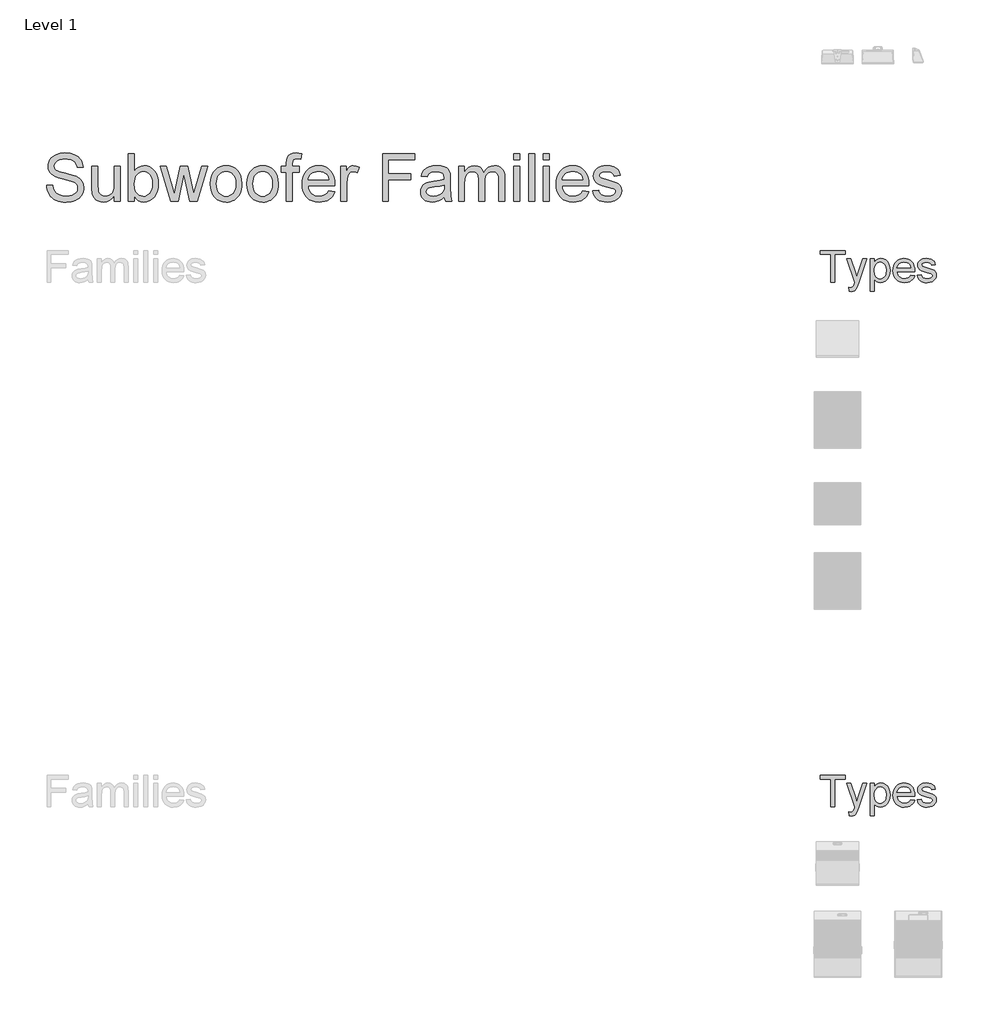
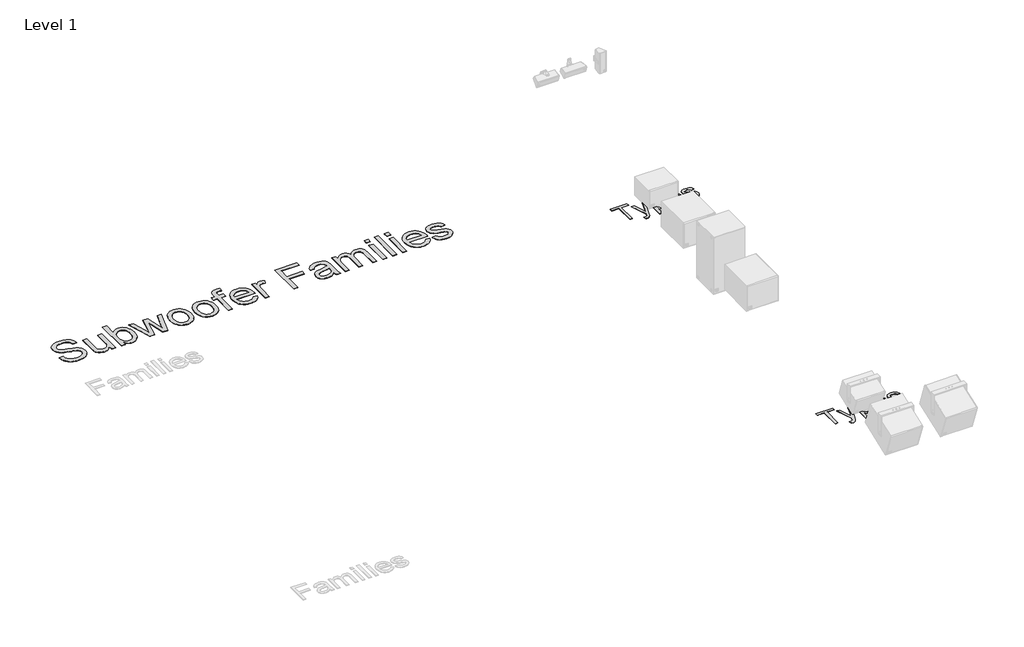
# One storey, part 6 of 12: 3 proxies.
"""IFC4 building model written with IfcOpenShell, lengths in millimetres."""

from ifc_helpers import new_model, si_unit, origin, origin_with_axes, place, context, project, spatial, polyline, outline, extrude, element, save

model = new_model("IFC4")

# Units and contexts
model_context = context("Model", 3, world=origin())
ifc_project = project(units=[si_unit("LENGTHUNIT", "METRE", prefix="MILLI")], contexts=[model_context])

# Site, building, storey
site = spatial("IfcSite", under=ifc_project)
building = spatial("IfcBuilding", under=site)
storey = spatial("IfcBuildingStorey", under=building, Name="Level 1", Elevation=0.0)

# Proxies
placement = place(None, origin())
element("IfcBuildingElementProxy", 1, Name="400mm Arial", ObjectType="400mm Arial", at=placement, inside=storey, context=model_context, shape_type="SweptSolid", body=[
    extrude(outline(polyline([(-11345.9583027, -9148.6945164), (-11345.9583027, -8805.9066376), (-11474.5037572, -8805.9066376), (-11474.5037572, -8756.9369407), (-11168.4431512, -8756.9369407), (-11168.4431512, -8805.9066376), (-11296.9886057, -8805.9066376), (-11296.9886057, -9148.6945164), (-11345.9583027, -9148.6945164)])), origin_with_axes(), (0.0, 0.0, 1.0), 5.0),
    extrude(outline(polyline([(-11119.4734542, -9258.8763346), (-11125.5946663, -9211.7238725), (-11100.7272421, -9216.0278498), (-11087.6479334, -9214.6768791), (-11077.4857648, -9210.6239672), (-11063.2348179, -9195.5600467), (-11049.8446663, -9159.5022816), (-11046.0189088, -9147.6424331), (-11150.0795148, -8860.9975467), (-11098.4317875, -8860.9975467), (-11043.2452345, -9020.7229255), (-11024.0208027, -9084.613077), (-11004.7963709, -9028.1831528), (-10948.0795148, -8860.9975467), (-10896.8143633, -8860.9975467), (-10996.9535679, -9155.5808801), (-11022.9687194, -9219.4710316), (-11036.2871379, -9239.8671017), (-11051.3749694, -9253.9984937), (-11068.9017213, -9262.2477835), (-11089.5369012, -9264.9975467), (-11119.4734542, -9258.8763346)])), origin_with_axes(), (0.0, 0.0, 1.0), 5.0),
    extrude(outline(polyline([(-10856.261333, -9258.8763346), (-10856.261333, -8860.9975467), (-10807.291636, -8860.9975467), (-10807.291636, -8909.0108043), (-10791.3190982, -8885.3269738), (-10773.4336815, -8868.409952), (-10752.5833027, -8858.259739), (-10727.7158785, -8854.8763346), (-10694.5991644, -8859.6107096), (-10665.6429618, -8873.8138346), (-10642.0667307, -8896.6249142), (-10625.0899315, -8927.1831528), (-10614.832119, -8963.2648289), (-10611.4128482, -9002.646221), (-10615.2744722, -9044.5263109), (-10626.8593444, -9081.9828687), (-10645.7968444, -9113.114971), (-10671.7163519, -9136.0216945), (-10701.9039703, -9150.11722), (-10733.6458027, -9154.8157285), (-10756.1579949, -9151.671434), (-10776.2551777, -9142.2385505), (-10793.4591313, -9127.999559), (-10807.291636, -9110.4369407), (-10807.291636, -9258.8763346), (-10856.261333, -9258.8763346)]), holes=[polyline([(-10807.291636, -9007.1414861), (-10801.9953529, -9051.0420543), (-10795.374999, -9068.0427645), (-10786.1065035, -9081.7437589), (-10762.6617828, -9099.8204634), (-10749.2447314, -9104.3396395), (-10734.697886, -9105.8460316), (-10719.9418195, -9104.2858398), (-10706.2796805, -9099.6052645), (-10682.2371853, -9080.8829634), (-10672.6757802, -9066.6858161), (-10665.8462052, -9049.0574426), (-10660.3825451, -9003.5070164), (-10665.7146947, -8959.8455581), (-10672.3798818, -8942.7133375), (-10681.7111436, -8928.7134558), (-10705.1199978, -8910.0628876), (-10718.3846166, -8905.4002456), (-10732.6893633, -8903.8460316), (-10746.9492769, -8905.4988784), (-10760.3663283, -8910.4574189), (-10784.6718444, -8930.2915808), (-10794.5680032, -8945.0117809), (-10801.6366881, -8962.7268318), (-10805.8778991, -8983.4367335), (-10807.291636, -9007.1414861)])]), origin_with_axes(), (0.0, 0.0, 1.0), 5.0),
    extrude(outline(polyline([(-10354.8958027, -9062.9975467), (-10306.8825451, -9069.1187589), (-10314.2441396, -9088.3491684), (-10324.1821427, -9105.2960789), (-10336.6965544, -9119.9594904), (-10351.7873747, -9132.3394028), (-10369.2991822, -9142.1727953), (-10389.0765555, -9149.1966471), (-10435.4279997, -9154.8157285), (-10465.8128837, -9152.3917525), (-10492.8860963, -9145.1198242), (-10516.6476375, -9132.9999437), (-10537.0975072, -9116.0321111), (-10553.5422871, -9094.6885683), (-10565.2885584, -9069.4415571), (-10572.3363212, -9040.2910777), (-10574.6855754, -9007.2371301), (-10572.3124102, -8973.062355), (-10565.1929144, -8942.9404918), (-10553.3270882, -8916.8715406), (-10536.7149315, -8894.8555013), (-10516.3188614, -8877.3646159), (-10493.1012951, -8864.8711263), (-10467.0622326, -8857.3750325), (-10438.2016739, -8854.8763346), (-10410.2706547, -8857.3690548), (-10385.0116881, -8864.8472153), (-10362.4247741, -8877.3108161), (-10342.5099125, -8894.7598573), (-10326.2534317, -8916.7280747), (-10314.6416597, -8942.7492039), (-10307.6745965, -8972.8232451), (-10305.3522421, -9006.9501982), (-10305.6391739, -9020.1490619), (-10525.7158785, -9020.1490619), (-10522.8794379, -9039.6903142), (-10517.2394343, -9056.8046017), (-10508.7958678, -9071.4919241), (-10497.5487383, -9083.7522816), (-10469.1305328, -9100.3225941), (-10434.4715603, -9105.8460316), (-10408.4085868, -9103.2875562), (-10386.4583027, -9095.6121301), (-10368.620708, -9082.3415335), (-10354.8958027, -9062.9975467)]), holes=[polyline([(-10525.7158785, -8971.1793649), (-10354.3219391, -8971.1793649), (-10360.9452819, -8945.3076793), (-10373.9289466, -8926.800577), (-10387.2832317, -8916.7579634), (-10402.4786625, -8909.5846679), (-10438.3929618, -8903.8460316), (-10471.4020764, -8908.4249852), (-10498.6964656, -8922.161846), (-10517.6698321, -8943.5741329), (-10525.7158785, -8971.1793649)])]), origin_with_axes(), (0.0, 0.0, 1.0), 5.0),
    extrude(outline(polyline([(-10274.7461815, -9062.9975467), (-10225.7764845, -9056.8763346), (-10218.0532364, -9077.8223573), (-10203.1088709, -9093.2210316), (-10180.847744, -9102.6897816), (-10151.1742118, -9105.8460316), (-10121.8593444, -9102.9528024), (-10101.2480754, -9094.2731149), (-10089.0534732, -9081.6959369), (-10084.9886057, -9067.1102361), (-10089.0773841, -9054.628702), (-10101.3437194, -9045.1121301), (-10151.7480754, -9031.1481149), (-10225.4895527, -9007.1893081), (-10244.1520764, -8995.1501272), (-10257.6737383, -8979.2134558), (-10265.8871616, -8960.3955107), (-10268.6249694, -8939.7125089), (-10266.4251588, -8920.7391424), (-10259.8257269, -8903.224346), (-10249.4244485, -8887.8615382), (-10235.8190982, -8875.3441376), (-10204.6869959, -8860.8540808), (-10162.5558406, -8854.8763346), (-10130.6824978, -8857.2793886), (-10102.9696663, -8864.4885505), (-10080.6846285, -8875.7984464), (-10065.0946663, -8890.503702), (-10054.7651209, -8909.6922674), (-10048.261333, -8934.4520922), (-10097.23103, -8940.5733043), (-10103.4120196, -8925.1626746), (-10115.6424883, -8913.5538914), (-10134.0419911, -8906.2729965), (-10158.730083, -8903.8460316), (-10186.8494012, -8906.1653971), (-10205.5956133, -8913.1234937), (-10216.1403576, -8923.1661073), (-10219.6552724, -8934.739024), (-10213.8209921, -8948.989971), (-10195.5529997, -8959.7977361), (-10153.3740224, -8970.2229255), (-10081.4976019, -8993.2731149), (-10062.51228, -9004.2960789), (-10048.1178671, -9019.3839104), (-10039.0436483, -9038.5844312), (-10036.0189088, -9061.9454634), (-10039.56969, -9086.0955581), (-10050.2220338, -9108.8109937), (-10067.5694533, -9128.3104018), (-10091.2054618, -9142.8124142), (-10119.7551777, -9151.8149), (-10151.8437194, -9154.8157285), (-10178.1996024, -9153.369114), (-10201.2199031, -9149.0292702), (-10220.9046214, -9141.7961973), (-10237.2537572, -9131.6698952), (-10250.6080423, -9118.6981859), (-10261.308208, -9102.9288914), (-10269.3542544, -9084.3620117), (-10274.7461815, -9062.9975467)])), origin_with_axes(), (0.0, 0.0, 1.0), 5.0),
])
element("IfcBuildingElementProxy", 2, Name="400mm Arial", ObjectType="400mm Arial", at=placement, inside=storey, context=model_context, shape_type="SweptSolid", body=[
    extrude(outline(polyline([(-11345.9583027, -15648.6945164), (-11345.9583027, -15305.9066376), (-11474.5037572, -15305.9066376), (-11474.5037572, -15256.9369407), (-11168.4431512, -15256.9369407), (-11168.4431512, -15305.9066376), (-11296.9886057, -15305.9066376), (-11296.9886057, -15648.6945164), (-11345.9583027, -15648.6945164)])), origin_with_axes(), (0.0, 0.0, 1.0), 5.0),
    extrude(outline(polyline([(-11119.4734542, -15758.8763346), (-11125.5946663, -15711.7238725), (-11100.7272421, -15716.0278498), (-11087.6479334, -15714.6768791), (-11077.4857648, -15710.6239672), (-11063.2348179, -15695.5600467), (-11049.8446663, -15659.5022816), (-11046.0189088, -15647.6424331), (-11150.0795148, -15360.9975467), (-11098.4317875, -15360.9975467), (-11043.2452345, -15520.7229255), (-11024.0208027, -15584.613077), (-11004.7963709, -15528.1831528), (-10948.0795148, -15360.9975467), (-10896.8143633, -15360.9975467), (-10996.9535679, -15655.5808801), (-11022.9687194, -15719.4710316), (-11036.2871379, -15739.8671017), (-11051.3749694, -15753.9984937), (-11068.9017213, -15762.2477835), (-11089.5369012, -15764.9975467), (-11119.4734542, -15758.8763346)])), origin_with_axes(), (0.0, 0.0, 1.0), 5.0),
    extrude(outline(polyline([(-10856.261333, -15758.8763346), (-10856.261333, -15360.9975467), (-10807.291636, -15360.9975467), (-10807.291636, -15409.0108043), (-10791.3190982, -15385.3269738), (-10773.4336815, -15368.409952), (-10752.5833027, -15358.259739), (-10727.7158785, -15354.8763346), (-10694.5991644, -15359.6107096), (-10665.6429618, -15373.8138346), (-10642.0667307, -15396.6249142), (-10625.0899315, -15427.1831528), (-10614.832119, -15463.2648289), (-10611.4128482, -15502.646221), (-10615.2744722, -15544.5263109), (-10626.8593444, -15581.9828687), (-10645.7968444, -15613.114971), (-10671.7163519, -15636.0216945), (-10701.9039703, -15650.11722), (-10733.6458027, -15654.8157285), (-10756.1579949, -15651.671434), (-10776.2551777, -15642.2385505), (-10793.4591313, -15627.999559), (-10807.291636, -15610.4369407), (-10807.291636, -15758.8763346), (-10856.261333, -15758.8763346)]), holes=[polyline([(-10807.291636, -15507.1414861), (-10801.9953529, -15551.0420543), (-10795.374999, -15568.0427645), (-10786.1065035, -15581.7437589), (-10762.6617828, -15599.8204634), (-10749.2447314, -15604.3396395), (-10734.697886, -15605.8460316), (-10719.9418195, -15604.2858398), (-10706.2796805, -15599.6052645), (-10682.2371853, -15580.8829634), (-10672.6757802, -15566.6858161), (-10665.8462052, -15549.0574426), (-10660.3825451, -15503.5070164), (-10665.7146947, -15459.8455581), (-10672.3798818, -15442.7133375), (-10681.7111436, -15428.7134558), (-10705.1199978, -15410.0628876), (-10718.3846166, -15405.4002456), (-10732.6893633, -15403.8460316), (-10746.9492769, -15405.4988784), (-10760.3663283, -15410.4574189), (-10784.6718444, -15430.2915808), (-10794.5680032, -15445.0117809), (-10801.6366881, -15462.7268318), (-10805.8778991, -15483.4367335), (-10807.291636, -15507.1414861)])]), origin_with_axes(), (0.0, 0.0, 1.0), 5.0),
    extrude(outline(polyline([(-10354.8958027, -15562.9975467), (-10306.8825451, -15569.1187589), (-10314.2441396, -15588.3491684), (-10324.1821427, -15605.2960789), (-10336.6965544, -15619.9594904), (-10351.7873747, -15632.3394028), (-10369.2991822, -15642.1727953), (-10389.0765555, -15649.1966471), (-10435.4279997, -15654.8157285), (-10465.8128837, -15652.3917525), (-10492.8860963, -15645.1198242), (-10516.6476375, -15632.9999437), (-10537.0975072, -15616.0321111), (-10553.5422871, -15594.6885683), (-10565.2885584, -15569.4415571), (-10572.3363212, -15540.2910777), (-10574.6855754, -15507.2371301), (-10572.3124102, -15473.062355), (-10565.1929144, -15442.9404918), (-10553.3270882, -15416.8715406), (-10536.7149315, -15394.8555013), (-10516.3188614, -15377.3646159), (-10493.1012951, -15364.8711263), (-10467.0622326, -15357.3750325), (-10438.2016739, -15354.8763346), (-10410.2706547, -15357.3690548), (-10385.0116881, -15364.8472153), (-10362.4247741, -15377.3108161), (-10342.5099125, -15394.7598573), (-10326.2534317, -15416.7280747), (-10314.6416597, -15442.7492039), (-10307.6745965, -15472.8232451), (-10305.3522421, -15506.9501982), (-10305.6391739, -15520.1490619), (-10525.7158785, -15520.1490619), (-10522.8794379, -15539.6903142), (-10517.2394343, -15556.8046017), (-10508.7958678, -15571.4919241), (-10497.5487383, -15583.7522816), (-10469.1305328, -15600.3225941), (-10434.4715603, -15605.8460316), (-10408.4085868, -15603.2875562), (-10386.4583027, -15595.6121301), (-10368.620708, -15582.3415335), (-10354.8958027, -15562.9975467)]), holes=[polyline([(-10525.7158785, -15471.1793649), (-10354.3219391, -15471.1793649), (-10360.9452819, -15445.3076793), (-10373.9289466, -15426.800577), (-10387.2832317, -15416.7579634), (-10402.4786625, -15409.5846679), (-10438.3929618, -15403.8460316), (-10471.4020764, -15408.4249852), (-10498.6964656, -15422.161846), (-10517.6698321, -15443.5741329), (-10525.7158785, -15471.1793649)])]), origin_with_axes(), (0.0, 0.0, 1.0), 5.0),
    extrude(outline(polyline([(-10274.7461815, -15562.9975467), (-10225.7764845, -15556.8763346), (-10218.0532364, -15577.8223573), (-10203.1088709, -15593.2210316), (-10180.847744, -15602.6897816), (-10151.1742118, -15605.8460316), (-10121.8593444, -15602.9528024), (-10101.2480754, -15594.2731149), (-10089.0534732, -15581.6959369), (-10084.9886057, -15567.1102361), (-10089.0773841, -15554.628702), (-10101.3437194, -15545.1121301), (-10151.7480754, -15531.1481149), (-10225.4895527, -15507.1893081), (-10244.1520764, -15495.1501272), (-10257.6737383, -15479.2134558), (-10265.8871616, -15460.3955107), (-10268.6249694, -15439.7125089), (-10266.4251588, -15420.7391424), (-10259.8257269, -15403.224346), (-10249.4244485, -15387.8615382), (-10235.8190982, -15375.3441376), (-10204.6869959, -15360.8540808), (-10162.5558406, -15354.8763346), (-10130.6824978, -15357.2793886), (-10102.9696663, -15364.4885505), (-10080.6846285, -15375.7984464), (-10065.0946663, -15390.503702), (-10054.7651209, -15409.6922674), (-10048.261333, -15434.4520922), (-10097.23103, -15440.5733043), (-10103.4120196, -15425.1626746), (-10115.6424883, -15413.5538914), (-10134.0419911, -15406.2729965), (-10158.730083, -15403.8460316), (-10186.8494012, -15406.1653971), (-10205.5956133, -15413.1234937), (-10216.1403576, -15423.1661073), (-10219.6552724, -15434.739024), (-10213.8209921, -15448.989971), (-10195.5529997, -15459.7977361), (-10153.3740224, -15470.2229255), (-10081.4976019, -15493.2731149), (-10062.51228, -15504.2960789), (-10048.1178671, -15519.3839104), (-10039.0436483, -15538.5844312), (-10036.0189088, -15561.9454634), (-10039.56969, -15586.0955581), (-10050.2220338, -15608.8109937), (-10067.5694533, -15628.3104018), (-10091.2054618, -15642.8124142), (-10119.7551777, -15651.8149), (-10151.8437194, -15654.8157285), (-10178.1996024, -15653.369114), (-10201.2199031, -15649.0292702), (-10220.9046214, -15641.7961973), (-10237.2537572, -15631.6698952), (-10250.6080423, -15618.6981859), (-10261.308208, -15602.9288914), (-10269.3542544, -15584.3620117), (-10274.7461815, -15562.9975467)])), origin_with_axes(), (0.0, 0.0, 1.0), 5.0),
])
element("IfcBuildingElementProxy", 3, Name="600mm Arial", ObjectType="600mm Arial", at=placement, inside=storey, context=model_context, shape_type="SweptSolid", body=[
    extrude(outline(polyline([(-21062.646299, -7945.6175934), (-20988.8001451, -7945.6175934), (-20980.3265874, -7986.5971607), (-20965.0020682, -8019.5358626), (-20941.0958182, -8045.6776895), (-20906.8770682, -8066.2666318), (-20865.0501451, -8079.6260068), (-20818.3193759, -8084.0791318), (-20777.177549, -8080.7077376), (-20741.1559143, -8070.5935549), (-20711.9672124, -8054.5839395), (-20691.3241836, -8033.5262472), (-20679.0465393, -8009.3495645), (-20674.9539913, -7983.982978), (-20678.0188951, -7959.2654299), (-20687.2136067, -7937.9012472), (-20705.8914913, -7919.6740837), (-20737.4059143, -7904.3675934), (-20844.9299528, -7876.170478), (-20915.5128855, -7857.5106222), (-20960.6751451, -7839.7522087), (-20997.4359624, -7814.9084587), (-21023.4876451, -7784.8002857), (-21039.0104817, -7750.076728), (-21044.1847605, -7711.3868241), (-21042.5847004, -7689.396139), (-21037.7845201, -7668.1356222), (-21029.7842196, -7647.6052736), (-21018.583799, -7627.8050934), (-21004.30946, -7609.5418722), (-20987.0874047, -7593.622401), (-20966.9176331, -7580.0466799), (-20943.8001451, -7568.8147087), (-20891.8410105, -7553.7245645), (-20834.3289913, -7548.6945164), (-20772.021299, -7553.9589395), (-20717.5020682, -7569.7522087), (-20693.6499047, -7581.5160309), (-20672.7184143, -7595.7498049), (-20654.707597, -7612.4535309), (-20639.6174528, -7631.6272087), (-20627.5651692, -7652.7119443), (-20618.6679336, -7675.1488434), (-20612.9257461, -7698.9379059), (-20610.3386067, -7724.0791318), (-20684.1847605, -7724.0791318), (-20689.1246643, -7700.5154299), (-20697.7424528, -7680.0166318), (-20710.0381259, -7662.5827376), (-20726.0116836, -7648.2137472), (-20745.9606018, -7636.981776), (-20770.1823567, -7628.9589395), (-20798.676948, -7624.1452376), (-20831.4443759, -7622.5406703), (-20865.2574768, -7624.1272087), (-20894.1487028, -7628.8868241), (-20918.1180538, -7636.8195164), (-20937.1655297, -7647.9252857), (-20951.6787509, -7661.2756462), (-20962.0453374, -7675.9421126), (-20968.2652893, -7691.9246847), (-20970.3386067, -7709.2233626), (-20964.4612028, -7737.6007664), (-20946.8289913, -7760.4252857), (-20930.6390874, -7770.575526), (-20905.146299, -7780.8339395), (-20826.2520682, -7801.6752857), (-20744.833799, -7821.4709587), (-20695.5789913, -7838.7425934), (-20653.4816355, -7865.5334587), (-20637.2060946, -7881.2816559), (-20624.1126451, -7898.5983626), (-20614.0480417, -7917.3934347), (-20606.8590393, -7937.576728), (-20601.1078374, -7982.107978), (-20602.7619841, -8005.2074371), (-20607.724424, -8027.6308145), (-20615.9951571, -8049.3781102), (-20627.5741836, -8070.4493241), (-20642.2586788, -8090.028651), (-20659.8458182, -8107.3002857), (-20680.3356018, -8122.264228), (-20703.7280297, -8134.920478), (-20729.3425129, -8144.9850813), (-20756.4984624, -8152.1740837), (-20815.4347605, -8157.9252857), (-20853.2097004, -8156.3748049), (-20887.7845201, -8151.7233626), (-20919.1592196, -8143.9709587), (-20947.333799, -8133.1175934), (-20972.4795321, -8119.1452376), (-20994.7676932, -8102.0358626), (-21014.1982821, -8081.7894684), (-21030.771299, -8058.4060549), (-21044.1216595, -8032.6428337), (-21053.8842797, -8005.2570164), (-21060.0591595, -7976.248603), (-21062.646299, -7945.6175934)])), origin_with_axes(), (0.0, 0.0, 1.0), 5.0),
    extrude(outline(polyline([(-20222.646299, -8148.6945164), (-20222.646299, -8074.1272087), (-20249.365049, -8110.7888674), (-20280.4828374, -8136.9757664), (-20315.9996643, -8152.6879059), (-20355.9155297, -8157.9252857), (-20391.8830778, -8154.247401), (-20425.3626451, -8143.2137472), (-20453.4515874, -8126.6272087), (-20473.2472605, -8106.2906703), (-20486.5705778, -8081.591151), (-20495.2424528, -8051.9156703), (-20499.5693759, -7983.2618241), (-20499.5693759, -7714.8483626), (-20425.723222, -7714.8483626), (-20425.723222, -7948.5022087), (-20424.6054336, -7995.232978), (-20421.2520682, -8023.7906703), (-20410.488847, -8048.904853), (-20392.0453374, -8067.997401), (-20367.1475009, -8080.0586991), (-20337.021299, -8084.0791318), (-20305.1643278, -8079.9685549), (-20275.3626451, -8067.6368241), (-20250.7893278, -8048.2197568), (-20234.6174528, -8022.8531703), (-20225.6390874, -7988.1115837), (-20222.646299, -7940.5695164), (-20222.646299, -7714.8483626), (-20148.8001451, -7714.8483626), (-20148.8001451, -8148.6945164), (-20222.646299, -8148.6945164)])), origin_with_axes(), (0.0, 0.0, 1.0), 5.0),
    extrude(outline(polyline([(-19973.4155297, -8148.6945164), (-20047.2616836, -8148.6945164), (-20047.2616836, -7557.9252857), (-19973.4155297, -7557.9252857), (-19973.4155297, -7777.0118241), (-19949.130674, -7745.7768482), (-19921.708799, -7723.466151), (-19891.1499047, -7710.0797328), (-19857.4539913, -7705.6175934), (-19819.4131259, -7709.638026), (-19783.4636067, -7721.6993241), (-19751.660722, -7741.044276), (-19726.0597605, -7766.9156703), (-19705.9936547, -7799.061103), (-19690.7953374, -7837.2281703), (-19681.2220201, -7879.8303337), (-19678.0309143, -7925.2810549), (-19681.3347004, -7977.7269684), (-19691.2460586, -8023.8627857), (-19707.7649889, -8063.6885068), (-19730.8914913, -8097.2041318), (-19758.6514071, -8123.7696366), (-19789.0705778, -8142.7449972), (-19822.1490033, -8154.1302135), (-19857.8866836, -8157.9252857), (-19892.6913711, -8153.0304539), (-19923.5477413, -8138.3459587), (-19950.4557942, -8113.8718001), (-19973.4155297, -8079.607978), (-19973.4155297, -8148.6945164)]), holes=[polyline([(-19973.4155297, -7928.7425934), (-19968.3674528, -7990.3291318), (-19962.0573567, -8013.6584587), (-19953.223222, -8032.0118241), (-19935.3295922, -8054.7912712), (-19914.5333182, -8071.0623049), (-19890.8343999, -8080.8249251), (-19864.2328374, -8084.0791318), (-19842.1475009, -8081.6812953), (-19821.6126451, -8074.4877857), (-19802.6282701, -8062.498603), (-19785.1943759, -8045.7137472), (-19770.6180538, -8024.1782905), (-19760.2063951, -7997.9373049), (-19753.9593999, -7966.9907905), (-19751.8770682, -7931.3387472), (-19753.8737629, -7895.0106222), (-19759.863847, -7863.7666318), (-19769.8473206, -7837.606776), (-19783.8241836, -7816.5310549), (-19800.6315754, -7800.3141078), (-19819.1066355, -7788.7305741), (-19839.2493639, -7781.7804539), (-19861.0597605, -7779.4637472), (-19883.145097, -7781.8615837), (-19903.6799528, -7789.0550934), (-19922.6643278, -7801.044276), (-19940.098222, -7817.8291318), (-19954.6745442, -7839.1482424), (-19965.0862028, -7864.7401895), (-19971.333198, -7894.6049732), (-19973.4155297, -7928.7425934)])]), origin_with_axes(), (0.0, 0.0, 1.0), 5.0),
    extrude(outline(polyline([(-19522.9828374, -8148.6945164), (-19654.9539913, -7714.8483626), (-19578.223222, -7714.8483626), (-19503.3674528, -7967.9733626), (-19481.0116836, -8058.4060549), (-19462.6943759, -7971.2906703), (-19403.1270682, -7714.8483626), (-19315.146299, -7714.8483626), (-19255.8674528, -7970.5695164), (-19239.5693759, -8049.4637472), (-19216.2039913, -7966.2425934), (-19141.2039913, -7714.8483626), (-19064.1847605, -7714.8483626), (-19197.1655297, -8148.6945164), (-19286.4443759, -8148.6945164), (-19343.1270682, -7894.2714395), (-19359.5693759, -7814.9445164), (-19432.6943759, -8148.6945164), (-19522.9828374, -8148.6945164)])), origin_with_axes(), (0.0, 0.0, 1.0), 5.0),
    extrude(outline(polyline([(-19031.8770682, -7931.7714395), (-19027.8836788, -7875.5845405), (-19015.9035105, -7827.1680741), (-18995.9365634, -7786.5220405), (-18967.9828374, -7753.6464395), (-18939.8398086, -7732.6338193), (-18908.7761067, -7717.6248049), (-18874.7917317, -7708.6193962), (-18837.8866836, -7705.6175934), (-18797.1459985, -7709.2729419), (-18760.3085586, -7720.2389876), (-18727.3743639, -7738.5157304), (-18698.3434143, -7764.1031703), (-18674.6490033, -7796.1359227), (-18657.724424, -7833.748603), (-18647.5696764, -7876.9412111), (-18644.1847605, -7925.7137472), (-18645.6811547, -7965.2419924), (-18650.1703374, -8000.3171126), (-18657.6523086, -8030.9391078), (-18668.1270682, -8057.107978), (-18681.4639071, -8079.7116438), (-18697.5321163, -8099.638026), (-18716.3316956, -8116.8871246), (-18737.8626451, -8131.4589395), (-18761.2866235, -8143.0379659), (-18785.7652893, -8151.3086991), (-18811.2986427, -8156.271139), (-18837.8866836, -8157.9252857), (-18879.2223206, -8154.2834587), (-18916.4023086, -8143.357978), (-18949.4266475, -8125.1488434), (-18978.2953374, -8099.6560549), (-19001.7373446, -8067.3123049), (-19018.4816355, -8028.5502857), (-19028.52821, -7983.3699972), (-19031.8770682, -7931.7714395)]), holes=[polyline([(-18958.0309143, -7931.6272087), (-18955.8944961, -7967.4460188), (-18949.4852413, -7998.4601414), (-18938.8031499, -8024.6695765), (-18923.848222, -8046.0743241), (-18905.6571163, -8062.7014275), (-18885.2664913, -8074.5779299), (-18862.676347, -8081.7038313), (-18837.8866836, -8084.0791318), (-18813.223222, -8081.6903097), (-18790.723222, -8074.5238434), (-18770.3866836, -8062.5797328), (-18752.2136067, -8045.857978), (-18737.2586788, -8024.2413914), (-18726.5765874, -7997.6127857), (-18720.1673326, -7965.9721607), (-18718.0309143, -7929.3195164), (-18720.1808542, -7894.6365236), (-18726.630674, -7864.4336991), (-18737.3803735, -7838.7110429), (-18752.4299528, -7817.4685549), (-18770.6706379, -7800.8414515), (-18790.9936547, -7788.9649491), (-18813.3990033, -7781.8390477), (-18837.8866836, -7779.4637472), (-18862.676347, -7781.8300333), (-18885.2664913, -7788.9288914), (-18905.6571163, -7800.7603217), (-18923.848222, -7817.3243241), (-18938.8031499, -7838.6659708), (-18949.4852413, -7864.8303337), (-18955.8944961, -7895.8174131), (-18958.0309143, -7931.6272087)])]), origin_with_axes(), (0.0, 0.0, 1.0), 5.0),
    extrude(outline(polyline([(-18579.5693759, -7931.7714395), (-18575.5759865, -7875.5845405), (-18563.5958182, -7827.1680741), (-18543.6288711, -7786.5220405), (-18515.6751451, -7753.6464395), (-18487.5321163, -7732.6338193), (-18456.4684143, -7717.6248049), (-18422.4840393, -7708.6193962), (-18385.5789913, -7705.6175934), (-18344.8383062, -7709.2729419), (-18308.0008663, -7720.2389876), (-18275.0666716, -7738.5157304), (-18246.035722, -7764.1031703), (-18222.341311, -7796.1359227), (-18205.4167317, -7833.748603), (-18195.2619841, -7876.9412111), (-18191.8770682, -7925.7137472), (-18193.3734624, -7965.2419924), (-18197.8626451, -8000.3171126), (-18205.3446163, -8030.9391078), (-18215.8193759, -8057.107978), (-18229.1562148, -8079.7116438), (-18245.224424, -8099.638026), (-18264.0240033, -8116.8871246), (-18285.5549528, -8131.4589395), (-18308.9789312, -8143.0379659), (-18333.457597, -8151.3086991), (-18358.9909504, -8156.271139), (-18385.5789913, -8157.9252857), (-18426.9146283, -8154.2834587), (-18464.0946163, -8143.357978), (-18497.1189552, -8125.1488434), (-18525.9876451, -8099.6560549), (-18549.4296523, -8067.3123049), (-18566.1739432, -8028.5502857), (-18576.2205177, -7983.3699972), (-18579.5693759, -7931.7714395)]), holes=[polyline([(-18505.723222, -7931.6272087), (-18503.5868038, -7967.4460188), (-18497.177549, -7998.4601414), (-18486.4954576, -8024.6695765), (-18471.5405297, -8046.0743241), (-18453.349424, -8062.7014275), (-18432.958799, -8074.5779299), (-18410.3686547, -8081.7038313), (-18385.5789913, -8084.0791318), (-18360.9155297, -8081.6903097), (-18338.4155297, -8074.5238434), (-18318.0789913, -8062.5797328), (-18299.9059143, -8045.857978), (-18284.9509865, -8024.2413914), (-18274.2688951, -7997.6127857), (-18267.8596403, -7965.9721607), (-18265.723222, -7929.3195164), (-18267.8731619, -7894.6365236), (-18274.3229817, -7864.4336991), (-18285.0726812, -7838.7110429), (-18300.1222605, -7817.4685549), (-18318.3629456, -7800.8414515), (-18338.6859624, -7788.9649491), (-18361.091311, -7781.8390477), (-18385.5789913, -7779.4637472), (-18410.3686547, -7781.8300333), (-18432.958799, -7788.9288914), (-18453.349424, -7800.7603217), (-18471.5405297, -7817.3243241), (-18486.4954576, -7838.6659708), (-18497.177549, -7864.8303337), (-18503.5868038, -7895.8174131), (-18505.723222, -7931.6272087)])]), origin_with_axes(), (0.0, 0.0, 1.0), 5.0),
    extrude(outline(polyline([(-18090.3386067, -8148.6945164), (-18090.3386067, -7788.6945164), (-18154.9539913, -7788.6945164), (-18154.9539913, -7714.8483626), (-18090.3386067, -7714.8483626), (-18090.3386067, -7671.1464395), (-18088.3914913, -7634.9805741), (-18082.5501451, -7609.559901), (-18067.6943759, -7585.0046126), (-18044.7616836, -7565.5695164), (-18012.6703374, -7552.9132664), (-17970.3386067, -7548.6945164), (-17938.2833182, -7550.7137472), (-17902.9828374, -7556.7714395), (-17913.8001451, -7626.0022087), (-17956.348222, -7622.5406703), (-17984.4191355, -7625.6055741), (-18002.8626451, -7634.8002857), (-18013.0850009, -7652.3603818), (-18016.4924528, -7680.5214395), (-18016.4924528, -7714.8483626), (-17933.4155297, -7714.8483626), (-17933.4155297, -7788.6945164), (-18016.4924528, -7788.6945164), (-18016.4924528, -8148.6945164), (-18090.3386067, -8148.6945164)])), origin_with_axes(), (0.0, 0.0, 1.0), 5.0),
    extrude(outline(polyline([(-17565.0501451, -8019.4637472), (-17492.646299, -8028.6945164), (-17503.747561, -8057.6939155), (-17518.7340393, -8083.2498049), (-17537.6057341, -8105.3621847), (-17560.3626451, -8124.0310549), (-17586.7703975, -8138.8597809), (-17616.5946163, -8149.451728), (-17649.8353014, -8155.8068962), (-17686.4924528, -8157.9252857), (-17732.3127653, -8154.2699371), (-17773.1390874, -8143.3038914), (-17808.9714192, -8125.0271486), (-17839.8097605, -8099.4397087), (-17864.6084384, -8067.2537111), (-17882.3217797, -8029.1812953), (-17892.9497845, -7985.2224611), (-17896.4924528, -7935.3772087), (-17892.9137268, -7883.841752), (-17882.177549, -7838.4180741), (-17864.2839192, -7799.1061751), (-17839.2328374, -7765.9060549), (-17808.4756259, -7739.529853), (-17773.4636067, -7720.6897087), (-17734.1967797, -7709.3856222), (-17690.6751451, -7705.6175934), (-17648.5552533, -7709.3766078), (-17610.4648086, -7720.653651), (-17576.403811, -7739.4487232), (-17546.3722605, -7765.7618241), (-17521.8575369, -7798.8898289), (-17504.3470201, -7838.1296126), (-17493.84071, -7883.4811751), (-17490.3386067, -7934.9445164), (-17490.771299, -7954.8483626), (-17822.646299, -7954.8483626), (-17818.3689552, -7984.3165116), (-17809.863847, -8010.1248049), (-17797.1309744, -8032.2732424), (-17780.1703374, -8050.7618241), (-17759.919436, -8065.3381462), (-17737.3157701, -8075.7498049), (-17712.3593398, -8081.9968001), (-17685.0501451, -8084.0791318), (-17645.7472605, -8080.2209587), (-17612.646299, -8068.6464395), (-17585.7472605, -8048.6344203), (-17565.0501451, -8019.4637472)]), holes=[polyline([(-17822.646299, -7881.0022087), (-17564.1847605, -7881.0022087), (-17574.1727413, -7841.9877857), (-17582.7634865, -7826.6452376), (-17593.7520682, -7814.0791318), (-17613.8902893, -7798.934901), (-17636.8049528, -7788.1175934), (-17662.4960586, -7781.6272087), (-17690.9636067, -7779.4637472), (-17716.9296523, -7781.1900092), (-17740.7412509, -7786.3687953), (-17762.3984023, -7795.0001054), (-17781.9011067, -7807.0839395), (-17798.2667917, -7822.0614034), (-17810.5128855, -7839.373603), (-17818.6393879, -7859.0205381), (-17822.646299, -7881.0022087)])]), origin_with_axes(), (0.0, 0.0, 1.0), 5.0),
    extrude(outline(polyline([(-17416.4924528, -8148.6945164), (-17416.4924528, -7714.8483626), (-17351.8770682, -7714.8483626), (-17351.8770682, -7779.0310549), (-17328.0068759, -7741.8195164), (-17306.0116836, -7719.8964395), (-17283.9443759, -7709.1873049), (-17259.8578374, -7705.6175934), (-17223.0789913, -7711.3147087), (-17185.723222, -7728.4060549), (-17210.3866836, -7794.607978), (-17236.348222, -7783.2498049), (-17262.3097605, -7779.4637472), (-17284.3590393, -7783.1055741), (-17304.0645682, -7794.0310549), (-17319.9840393, -7811.4108626), (-17330.6751451, -7834.4156703), (-17339.6535105, -7875.6656703), (-17342.646299, -7920.6656703), (-17342.646299, -8148.6945164), (-17416.4924528, -8148.6945164)])), origin_with_axes(), (0.0, 0.0, 1.0), 5.0),
    extrude(outline(polyline([(-16899.5693759, -8148.6945164), (-16899.5693759, -7557.9252857), (-16502.646299, -7557.9252857), (-16502.646299, -7631.7714395), (-16825.723222, -7631.7714395), (-16825.723222, -7807.1560549), (-16548.8001451, -7807.1560549), (-16548.8001451, -7881.0022087), (-16825.723222, -7881.0022087), (-16825.723222, -8148.6945164), (-16899.5693759, -8148.6945164)])), origin_with_axes(), (0.0, 0.0, 1.0), 5.0),
    extrude(outline(polyline([(-16133.4155297, -8093.309901), (-16168.6979817, -8123.5623049), (-16205.0261067, -8143.357978), (-16243.2292317, -8154.2834587), (-16284.1366836, -8157.9252857), (-16317.0167917, -8155.7347809), (-16345.849424, -8149.1632664), (-16370.6345802, -8138.2107424), (-16391.3722605, -8122.8772087), (-16407.74696, -8104.1362232), (-16419.443174, -8082.9613434), (-16426.4609023, -8059.3525693), (-16428.8001451, -8033.309901), (-16425.2664913, -8002.6969203), (-16414.6655297, -7974.8964395), (-16398.3133663, -7951.0983626), (-16377.5261067, -7932.4925934), (-16353.0970201, -7918.4300934), (-16325.8193759, -7908.2618241), (-16261.9251451, -7897.1560549), (-16186.4203374, -7885.4733626), (-16133.848222, -7871.7714395), (-16133.4155297, -7855.3291318), (-16138.4996643, -7822.372401), (-16144.8548326, -7810.1668722), (-16153.7520682, -7800.809901), (-16169.130674, -7791.4709587), (-16187.8626451, -7784.8002857), (-16235.3866836, -7779.4637472), (-16279.3770682, -7783.0154299), (-16310.098222, -7793.670478), (-16331.0477413, -7813.3760068), (-16345.723222, -7844.0791318), (-16419.5693759, -7834.8483626), (-16406.7508663, -7794.4637472), (-16387.6222605, -7762.732978), (-16360.3987028, -7738.466151), (-16323.2953374, -7720.4733626), (-16277.9167317, -7709.3315357), (-16225.8674528, -7705.6175934), (-16175.9455778, -7708.8988434), (-16136.3722605, -7718.7425934), (-16106.5345201, -7733.544276), (-16085.8193759, -7751.6993241), (-16072.0813951, -7774.1452376), (-16063.1751451, -7801.8195164), (-16059.5693759, -7866.434901), (-16059.5693759, -7958.309901), (-16055.8193759, -8086.6031703), (-16050.2664913, -8118.3159107), (-16041.1078374, -8148.6945164), (-16114.9539913, -8148.6945164), (-16126.7809143, -8123.0214395), (-16133.4155297, -8093.309901)]), holes=[polyline([(-16133.4155297, -7945.6175934), (-16183.0309143, -7957.9132664), (-16252.5501451, -7968.2618241), (-16316.083799, -7980.232978), (-16332.6162509, -7988.4180741), (-16344.8578374, -7999.7041318), (-16352.4299528, -8013.2257664), (-16354.9539913, -8028.1175934), (-16349.4551932, -8050.076728), (-16332.958799, -8068.0695164), (-16305.8253855, -8080.076728), (-16268.4155297, -8084.0791318), (-16228.7520682, -8079.6620645), (-16193.7039913, -8066.4108626), (-16165.2905297, -8046.8856222), (-16145.5309143, -8023.6464395), (-16136.7688951, -7999.7041318), (-16133.848222, -7966.5310549), (-16133.4155297, -7945.6175934)])]), origin_with_axes(), (0.0, 0.0, 1.0), 5.0),
    extrude(outline(polyline([(-15958.0309143, -8148.6945164), (-15958.0309143, -7714.8483626), (-15884.1847605, -7714.8483626), (-15884.1847605, -7786.2425934), (-15861.973222, -7753.4481222), (-15833.4155297, -7727.7570164), (-15799.4852413, -7711.1524491), (-15761.1559143, -7705.6175934), (-15720.0862028, -7711.2606222), (-15702.6072365, -7718.3144083), (-15687.1655297, -7728.1897087), (-15662.5741836, -7755.2870645), (-15646.4924528, -7791.434901), (-15619.5753855, -7753.8898289), (-15588.8722605, -7727.0719203), (-15554.3830778, -7710.9811751), (-15516.1078374, -7705.6175934), (-15486.5450369, -7707.8486631), (-15460.5970201, -7714.5418722), (-15438.2637869, -7725.6972208), (-15419.5453374, -7741.3147087), (-15404.7481619, -7761.5746246), (-15394.1787509, -7786.6572568), (-15387.8371042, -7816.5626054), (-15385.723222, -7851.2906703), (-15385.723222, -8148.6945164), (-15459.5693759, -8148.6945164), (-15459.5693759, -7883.0214395), (-15461.2821163, -7846.1885068), (-15466.4203374, -7821.3627857), (-15476.0477413, -7804.3615837), (-15491.2280297, -7791.0022087), (-15510.7532701, -7782.3483626), (-15533.4155297, -7779.4637472), (-15554.3425129, -7781.3117039), (-15573.4215393, -7786.8555741), (-15590.6526091, -7796.0953578), (-15606.035722, -7809.0310549), (-15618.6874648, -7826.0412712), (-15627.724424, -7847.5046126), (-15633.1465994, -7873.4210789), (-15634.9539913, -7903.7906703), (-15634.9539913, -8148.6945164), (-15708.8001451, -8148.6945164), (-15708.8001451, -7874.8002857), (-15713.0729817, -7833.045478), (-15725.8914913, -7803.2618241), (-15735.8028494, -7792.8501655), (-15748.4455778, -7785.4132664), (-15763.8196764, -7780.951127), (-15781.9251451, -7779.4637472), (-15810.3746643, -7783.4300934), (-15836.5886067, -7795.3291318), (-15858.223222, -7814.872401), (-15872.9347605, -7841.7714395), (-15881.3722605, -7879.091151), (-15884.1847605, -7929.8964395), (-15884.1847605, -8148.6945164), (-15958.0309143, -8148.6945164)])), origin_with_axes(), (0.0, 0.0, 1.0), 5.0),
    extrude(outline(polyline([(-15274.9539913, -8148.6945164), (-15274.9539913, -7714.8483626), (-15201.1078374, -7714.8483626), (-15201.1078374, -8148.6945164), (-15274.9539913, -8148.6945164)])), origin_with_axes(), (0.0, 0.0, 1.0), 5.0),
    extrude(outline(polyline([(-15274.9539913, -7631.7714395), (-15274.9539913, -7557.9252857), (-15201.1078374, -7557.9252857), (-15201.1078374, -7631.7714395), (-15274.9539913, -7631.7714395)])), origin_with_axes(), (0.0, 0.0, 1.0), 5.0),
    extrude(outline(polyline([(-15090.3386067, -8148.6945164), (-15090.3386067, -7557.9252857), (-15016.4924528, -7557.9252857), (-15016.4924528, -8148.6945164), (-15090.3386067, -8148.6945164)])), origin_with_axes(), (0.0, 0.0, 1.0), 5.0),
    extrude(outline(polyline([(-14905.723222, -8148.6945164), (-14905.723222, -7714.8483626), (-14831.8770682, -7714.8483626), (-14831.8770682, -8148.6945164), (-14905.723222, -8148.6945164)])), origin_with_axes(), (0.0, 0.0, 1.0), 5.0),
    extrude(outline(polyline([(-14905.723222, -7631.7714395), (-14905.723222, -7557.9252857), (-14831.8770682, -7557.9252857), (-14831.8770682, -7631.7714395), (-14905.723222, -7631.7714395)])), origin_with_axes(), (0.0, 0.0, 1.0), 5.0),
    extrude(outline(polyline([(-14417.3578374, -8019.4637472), (-14344.9539913, -8028.6945164), (-14356.0552533, -8057.6939155), (-14371.0417317, -8083.2498049), (-14389.9134264, -8105.3621847), (-14412.6703374, -8124.0310549), (-14439.0780898, -8138.8597809), (-14468.9023086, -8149.451728), (-14502.1429937, -8155.8068962), (-14538.8001451, -8157.9252857), (-14584.6204576, -8154.2699371), (-14625.4467797, -8143.3038914), (-14661.2791115, -8125.0271486), (-14692.1174528, -8099.4397087), (-14716.9161307, -8067.2537111), (-14734.629472, -8029.1812953), (-14745.2574768, -7985.2224611), (-14748.8001451, -7935.3772087), (-14745.2214192, -7883.841752), (-14734.4852413, -7838.4180741), (-14716.5916115, -7799.1061751), (-14691.5405297, -7765.9060549), (-14660.7833182, -7739.529853), (-14625.771299, -7720.6897087), (-14586.504472, -7709.3856222), (-14542.9828374, -7705.6175934), (-14500.8629456, -7709.3766078), (-14462.7725009, -7720.653651), (-14428.7115033, -7739.4487232), (-14398.6799528, -7765.7618241), (-14374.1652292, -7798.8898289), (-14356.6547124, -7838.1296126), (-14346.1484023, -7883.4811751), (-14342.646299, -7934.9445164), (-14343.0789913, -7954.8483626), (-14674.9539913, -7954.8483626), (-14670.6766475, -7984.3165116), (-14662.1715393, -8010.1248049), (-14649.4386667, -8032.2732424), (-14632.4780297, -8050.7618241), (-14612.2271283, -8065.3381462), (-14589.6234624, -8075.7498049), (-14564.6670321, -8081.9968001), (-14537.3578374, -8084.0791318), (-14498.0549528, -8080.2209587), (-14464.9539913, -8068.6464395), (-14438.0549528, -8048.6344203), (-14417.3578374, -8019.4637472)]), holes=[polyline([(-14674.9539913, -7881.0022087), (-14416.4924528, -7881.0022087), (-14426.4804336, -7841.9877857), (-14435.0711788, -7826.6452376), (-14446.0597605, -7814.0791318), (-14466.1979817, -7798.934901), (-14489.1126451, -7788.1175934), (-14514.8037509, -7781.6272087), (-14543.271299, -7779.4637472), (-14569.2373446, -7781.1900092), (-14593.0489432, -7786.3687953), (-14614.7060946, -7795.0001054), (-14634.208799, -7807.0839395), (-14650.5744841, -7822.0614034), (-14662.8205778, -7839.373603), (-14670.9470802, -7859.0205381), (-14674.9539913, -7881.0022087)])]), origin_with_axes(), (0.0, 0.0, 1.0), 5.0),
    extrude(outline(polyline([(-14296.4924528, -8019.4637472), (-14222.646299, -8010.232978), (-14218.1841595, -8027.0719203), (-14210.9996643, -8041.8195164), (-14201.0928134, -8054.4757664), (-14188.4636067, -8065.0406703), (-14173.0759865, -8073.3699972), (-14154.8938951, -8079.3195164), (-14110.146299, -8084.0791318), (-14065.9395682, -8079.716151), (-14048.7580778, -8074.2624251), (-14034.8578374, -8066.6272087), (-14016.4684143, -8047.6608626), (-14010.3386067, -8025.6656703), (-14011.880073, -8015.6957184), (-14016.504472, -8006.8435549), (-14035.0020682, -7992.4925934), (-14062.6583182, -7983.1175934), (-14111.0116836, -7971.434901), (-14178.4035105, -7951.9457184), (-14222.2136067, -7935.3050934), (-14250.3566355, -7917.1500453), (-14270.7472605, -7893.1175934), (-14283.1330778, -7864.7401895), (-14287.2616836, -7833.5502857), (-14283.9443759, -7804.9385068), (-14273.9924528, -7778.5262472), (-14258.3073567, -7755.3591799), (-14237.7905297, -7736.482978), (-14217.3999047, -7724.6019684), (-14190.8434143, -7714.6320164), (-14160.1402893, -7707.8711991), (-14127.3097605, -7705.6175934), (-14079.2448567, -7709.2413914), (-14037.4539913, -7720.1127857), (-14003.848222, -7737.1680741), (-13980.3386067, -7759.3435549), (-13964.7616836, -7788.279853), (-13954.9539913, -7825.6175934), (-14028.8001451, -7834.8483626), (-14038.1210586, -7811.6091799), (-14056.5645682, -7794.1031703), (-14084.3109624, -7783.123603), (-14121.5405297, -7779.4637472), (-14163.9443759, -7782.9613434), (-14192.2136067, -7793.4541318), (-14208.115049, -7808.5983626), (-14213.4155297, -7826.0502857), (-14211.2160105, -7837.4084587), (-14204.6174528, -7847.5406703), (-14193.3313951, -7856.591151), (-14177.0693759, -7863.8387472), (-14113.4636067, -7879.559901), (-14005.0741836, -7914.3195164), (-13976.4443759, -7930.9421126), (-13954.7376451, -7953.6945164), (-13941.0537509, -7982.6488434), (-13936.4924528, -8017.8772087), (-13941.8470201, -8054.295478), (-13957.910722, -8088.5502857), (-13984.0705778, -8117.9553337), (-14019.7136067, -8139.8243241), (-14062.7664913, -8153.4000453), (-14111.1559143, -8157.9252857), (-14150.9005057, -8155.7437953), (-14185.615049, -8149.1993241), (-14215.2995442, -8138.2918722), (-14239.9539913, -8123.0214395), (-14260.0922124, -8103.4601414), (-14276.2280297, -8079.6800934), (-14288.3614432, -8051.6812953), (-14296.4924528, -8019.4637472)])), origin_with_axes(), (0.0, 0.0, 1.0), 5.0),
])

save(model, "model.ifc")
